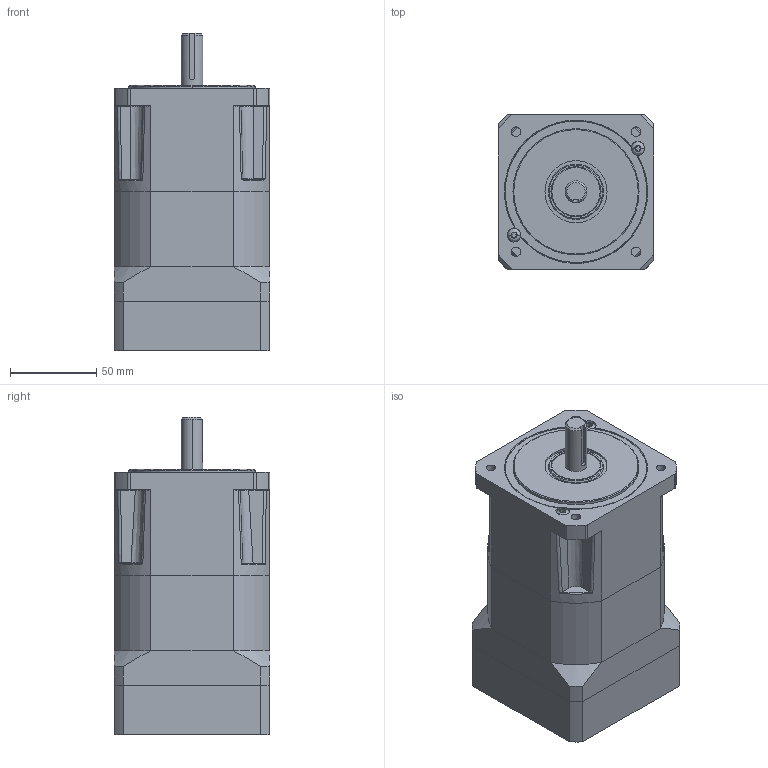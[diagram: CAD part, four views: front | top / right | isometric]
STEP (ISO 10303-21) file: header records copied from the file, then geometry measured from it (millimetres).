
FILE_DESCRIPTION((''),'2;1');
FILE_NAME('GEN_II_PX34_DOUBLE_LONG_ADAPT','2008-11-20T',('aza7363'),(''),'PRO/ENGINEER BY PARAMETRIC TECHNOLOGY CORPORATION, 2006300','PRO/ENGINEER BY PARAMETRIC TECHNOLOGY CORPORATION, 2006300','');
FILE_SCHEMA(('CONFIG_CONTROL_DESIGN'));
Length unit declared in the file: millimetre
Products named in the file (1): GEN_II_PX34_DOUBLE_LONG_ADAPT
Bounding box: 90 x 90 x 183.75 mm (x, y, z)
Surface area: 96126.8 mm2 (no closed solid volume)
Topology: 0 solids, 29 shells, 328 faces, 915 edges, 626 vertices
Faces by surface type: plane 135, cylinder 118, bspline 43, cone 20, torus 12
Entity records: 12562 total; most frequent: CARTESIAN_POINT 4301, DIRECTION 1715, ORIENTED_EDGE 1568, EDGE_CURVE 915, AXIS2_PLACEMENT_3D 644, VERTEX_POINT 626, VECTOR 427, LINE 427
